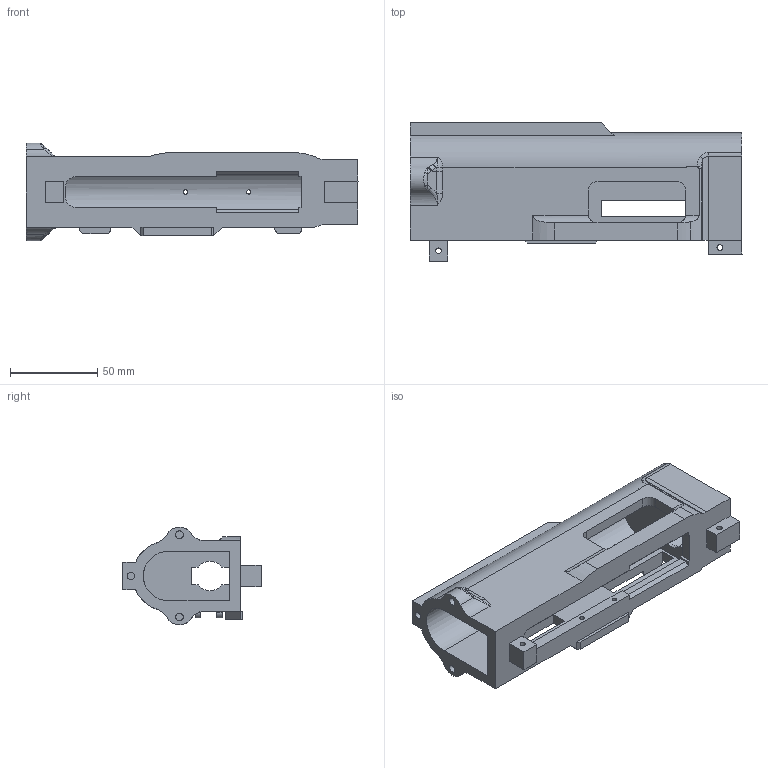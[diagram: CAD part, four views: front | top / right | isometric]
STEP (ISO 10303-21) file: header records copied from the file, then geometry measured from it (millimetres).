
FILE_DESCRIPTION(/* description */ (''),/* implementation_level */ '2;1');
FILE_NAME(/* name */ 'C:/Users/chadm/OneDrive/Documents/3D Printing/~Others/FGC-9/AdaptToShuty/FGC_GlonkBrrlAdapt/Upper Receiver_Glockadapted.step',/* time_stamp */ '2020-05-14T14:19:27-05:00',/* author */ (''),/* organization */ (''),/* preprocessor_version */ 'ST-DEVELOPER v18.1',/* originating_system */ 'Autodesk Translation Framework v9.3.0.1241',/* authorisation */ '');
FILE_SCHEMA (('AUTOMOTIVE_DESIGN { 1 0 10303 214 3 1 1 }'));
Length unit declared in the file: millimetre
Products named in the file (1): Upper Receiver
Bounding box: 190.38 x 79.44 x 56.2 mm (x, y, z)
Volume: 197436 mm3; surface area: 66493.1 mm2
Topology: 1 solids, 1 shells, 192 faces, 523 edges, 331 vertices
Faces by surface type: plane 102, cylinder 52, bspline 33, cone 3, torus 2
Full cylindrical faces by diameter (mm): 2.4 x1, 2.65 x4, 2.7 x4, 3.2 x1, 3.3 x1, 4.4 x3, 28.4 x1
Entity records: 7040 total; most frequent: CARTESIAN_POINT 2270, ORIENTED_EDGE 1030, DIRECTION 897, EDGE_CURVE 515, VERTEX_POINT 331, LINE 321, VECTOR 321, AXIS2_PLACEMENT_3D 288
